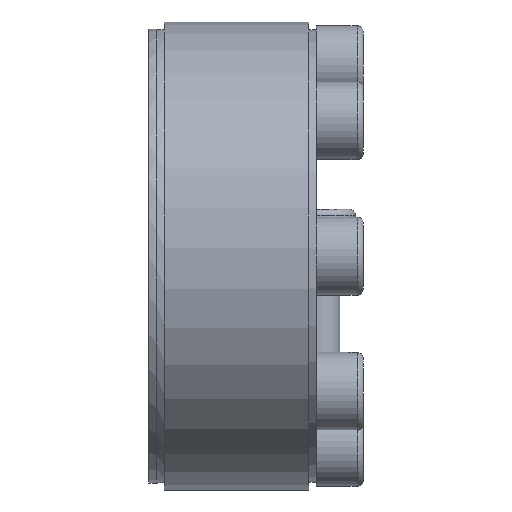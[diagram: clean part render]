
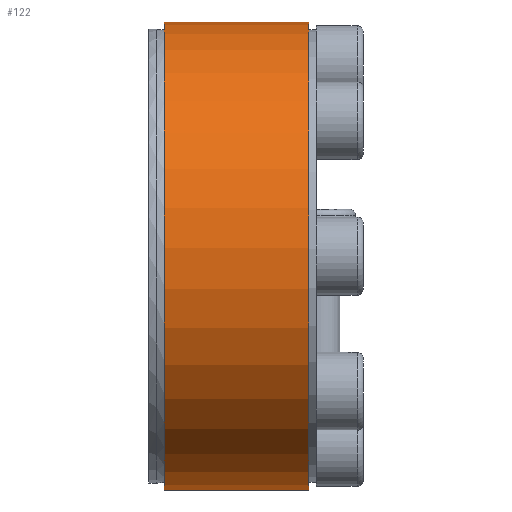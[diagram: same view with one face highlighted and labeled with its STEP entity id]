
A CAD part, left-side view. The second image highlights one B-rep face of the part: STEP entity #122.
In plain terms, the highlighted cylindrical face has radius 30 mm (diameter 60 mm), a partial arc.
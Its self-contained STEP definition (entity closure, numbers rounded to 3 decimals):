
#122 = ADVANCED_FACE( '', ( #262 ), #263, .T. );
#262 = FACE_OUTER_BOUND( '', #404, .T. );
#263 = CYLINDRICAL_SURFACE( '', #405, 30. );
#404 = EDGE_LOOP( '', ( #688, #689, #690, #691 ) );
#405 = AXIS2_PLACEMENT_3D( '', #692, #693, #694 );
#688 = ORIENTED_EDGE( '', *, *, #817, .F. );
#689 = ORIENTED_EDGE( '', *, *, #839, .T. );
#690 = ORIENTED_EDGE( '', *, *, #848, .T. );
#691 = ORIENTED_EDGE( '', *, *, #808, .F. );
#692 = CARTESIAN_POINT( '', ( 0., -60., 0. ) );
#693 = DIRECTION( '', ( 0., 1., 0. ) );
#694 = DIRECTION( '', ( 0., 0., -1. ) );
#808 = EDGE_CURVE( '', #992, #994, #995, .T. );
#817 = EDGE_CURVE( '', #1009, #992, #1010, .T. );
#839 = EDGE_CURVE( '', #1009, #1036, #1037, .T. );
#848 = EDGE_CURVE( '', #1036, #994, #1047, .T. );
#992 = VERTEX_POINT( '', #1291 );
#994 = VERTEX_POINT( '', #1294 );
#995 = CIRCLE( '', #1295, 30. );
#1009 = VERTEX_POINT( '', #1315 );
#1010 = LINE( '', #1316, #1317 );
#1036 = VERTEX_POINT( '', #1352 );
#1037 = CIRCLE( '', #1353, 30. );
#1047 = LINE( '', #1366, #1367 );
#1291 = CARTESIAN_POINT( '', ( 10.784, 1., 27.995 ) );
#1294 = CARTESIAN_POINT( '', ( 12.17, 1., 27.421 ) );
#1295 = AXIS2_PLACEMENT_3D( '', #1487, #1488, #1489 );
#1315 = CARTESIAN_POINT( '', ( 10.784, 19.5, 27.995 ) );
#1316 = CARTESIAN_POINT( '', ( 10.784, -60., 27.995 ) );
#1317 = VECTOR( '', #1496, 1000. );
#1352 = CARTESIAN_POINT( '', ( 12.17, 19.5, 27.421 ) );
#1353 = AXIS2_PLACEMENT_3D( '', #1515, #1516, #1517 );
#1366 = CARTESIAN_POINT( '', ( 12.17, -60., 27.421 ) );
#1367 = VECTOR( '', #1527, 1000. );
#1487 = CARTESIAN_POINT( '', ( 0., 1., 0. ) );
#1488 = DIRECTION( '', ( 0., -1., 0. ) );
#1489 = DIRECTION( '', ( 0., 0., -1. ) );
#1496 = DIRECTION( '', ( 0., -1., 0. ) );
#1515 = CARTESIAN_POINT( '', ( 0., 19.5, 0. ) );
#1516 = DIRECTION( '', ( 0., -1., 0. ) );
#1517 = DIRECTION( '', ( 0., 0., -1. ) );
#1527 = DIRECTION( '', ( 0., -1., 0. ) );
